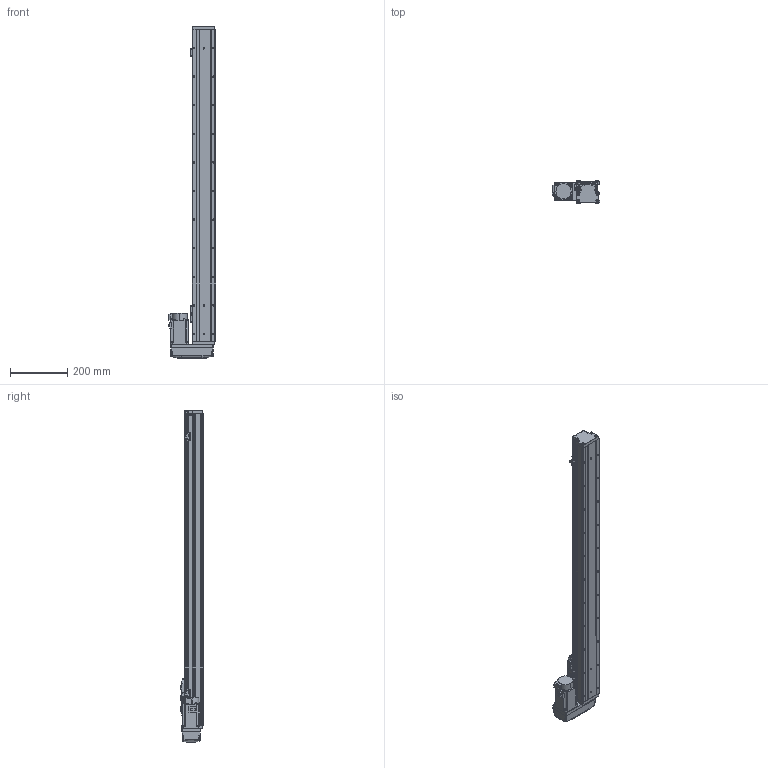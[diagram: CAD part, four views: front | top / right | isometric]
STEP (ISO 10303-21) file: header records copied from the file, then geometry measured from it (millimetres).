
FILE_DESCRIPTION (( 'STEP AP203' ), '1' );
FILE_NAME ('GTH8-900-BL-M20-C4.step', '2022-09-23T01:01:50', ( '微软用户' ), ( '微软中国' ), 'SwSTEP 2.0', 'SolidWorks 2020', '' );
FILE_SCHEMA (( 'CONFIG_CONTROL_DESIGN' ));
Length unit declared in the file: millimetre
Products named in the file (18): GTH80-004; GTH80-028; CTHA86-033_M40B; GTH80-006; GTH50-024; GTH8-900-BL-M20-C4; GTH80-013; GTH50-023; GBT 70.3-M3℅6; GBT96.1-2002 3×0.8; GTH80-022; BTH-M3X5X6; GTH80-001_900; GBT 70.1-M3℅6; hg-kn43j_-s100_; GTH80-003; GBT 70.1-M4×16; CTHA86-015-1_CTHA86-015-2
Assembly tree (57 placements, depth 2):
  GTH8-900-BL-M20-C4
    GTH80-001_900
    GTH80-003
    GTH80-004
    GTH80-006
    GTH80-013
    GBT 70.3-M3℅6  x4
    GTH80-022
    GBT 70.1-M3℅6  x14
    GBT 70.1-M4×16  x8
    GTH80-028  x2
    GTH50-024  x3
    GTH50-023  x3
    GBT96.1-2002 3×0.8  x6
    BTH-M3X5X6  x8
    hg-kn43j_-s100_
    CTHA86-015-1_CTHA86-015-2
    CTHA86-033_M40B
Bounding box: 164.8 x 78 x 1161 mm (x, y, z)
Volume: 5707901.3 mm3; surface area: 563650.6 mm2
Topology: 59 solids, 59 shells, 2252 faces, 5211 edges, 3195 vertices
Faces by surface type: plane 1187, cylinder 623, cone 260, torus 166, bspline 8, sphere 8
Entity records: 41366 total; most frequent: CARTESIAN_POINT 7265, DIRECTION 6733, ORIENTED_EDGE 6240, EDGE_CURVE 3120, AXIS2_PLACEMENT_3D 2361, LINE 2011, VECTOR 2011, VERTEX_POINT 1970
